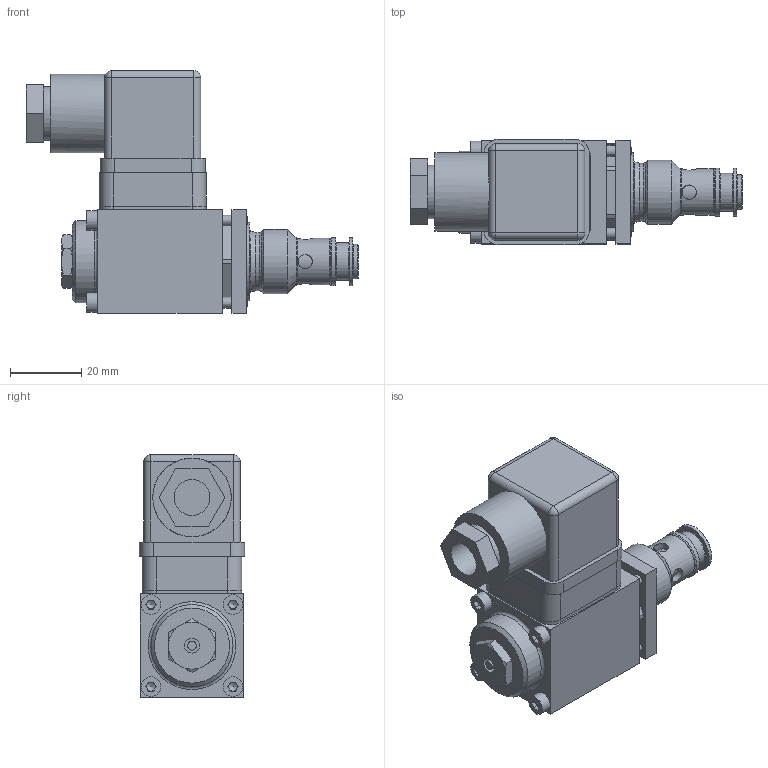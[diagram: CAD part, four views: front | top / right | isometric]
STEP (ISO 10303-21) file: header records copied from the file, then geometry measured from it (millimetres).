
FILE_DESCRIPTION(('Bauteilbeschreibung','HiCAD-Model','HiCAD-STEP-TRANSLATION','Bauteilbeschreibung'),'2;1');
FILE_NAME('C:/_EIGENE_DATEN/DXF_STEP/BDPPM18_4508.STP','2008-11-04T08:00:47+00:00',('Konstrukteur'),('Konstrukteur Firma GmbH'),' HiCAD neXt 2007, Step 3.1.1212.3C ','HiCAD neXt 2007','confidential');
FILE_SCHEMA(('AUTOMOTIVE_DESIGN { 1 2 10303 214 0 1 1 1 }'));
Length unit declared in the file: millimetre
Products named in the file (25): BDPPM18_4508; BDPPM18; A05EAE89; AB0E3F5C; A86115F3; CA9517B3; CA9517B30; DICHTUNG; A6EB7CD7; CBFAC48F; A11F481F; D82DEE49; ZYL_SCHR; F01F47FE; F01F47FE0; DIN_13; F01F47FE1; F01F47FE2; DIN013; F01F47FE3; F01F47FE4; DIN0130; F01F47FE5; F01F47FE6; DIN0131
Assembly tree (24 placements, depth 6):
  BDPPM18_4508
    BDPPM18
      A05EAE89
        AB0E3F5C
          A86115F3
          CA9517B3
          CA9517B30
            DICHTUNG
          A6EB7CD7
        CBFAC48F
        A11F481F
        D82DEE49
        ZYL_SCHR
          F01F47FE
          F01F47FE0
            DIN_13
          F01F47FE1
          F01F47FE2
            DIN013
          F01F47FE3
          F01F47FE4
            DIN0130
          F01F47FE5
          F01F47FE6
            DIN0131
Bounding box: 93 x 29.5 x 68 mm (x, y, z)
Volume: 77485.4 mm3; surface area: 28341.1 mm2
Topology: 18 solids, 18 shells, 305 faces, 874 edges, 612 vertices
Faces by surface type: plane 157, cylinder 101, cone 33, torus 10, sphere 4
Full cylindrical faces by diameter (mm): 1.5 x3, 2.387 x8, 2.5 x1, 2.9 x1, 3 x15, 3.4 x4, 4 x4, 4.2 x1, 4.5 x2, 5.5 x4, 6.5 x1, 6.8 x1, 8 x2, 9.7 x1, 10 x2, 10.6 x1, 12 x1, 13 x1, 13.5 x2, 15 x2, 16.3 x1, 18 x1, 22 x2, 22.1 x1, 23 x1
Entity records: 12356 total; most frequent: CARTESIAN_POINT 4454, DIRECTION 1511, ORIENTED_EDGE 1468, EDGE_CURVE 734, AXIS2_PLACEMENT_3D 594, VERTEX_POINT 575, EDGE_LOOP 467, LINE 323
